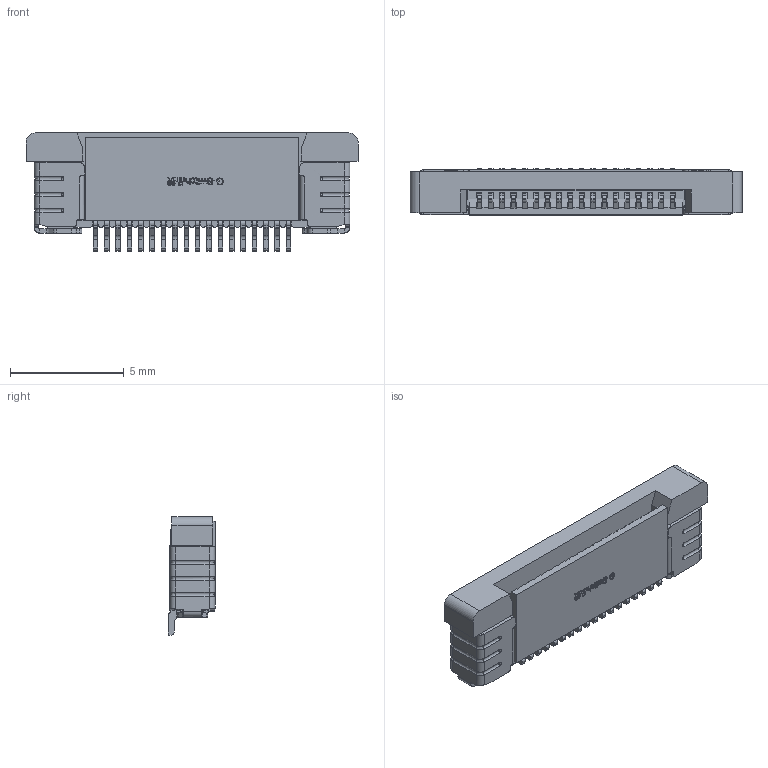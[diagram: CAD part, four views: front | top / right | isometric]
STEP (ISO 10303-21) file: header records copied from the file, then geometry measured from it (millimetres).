
FILE_DESCRIPTION (( 'STEP AP203' ), '1' );
FILE_NAME ('GT-F0504SR20-XXSMT01.STEP', '2023-12-27T07:47:25', ( 'Microsoft' ), ( 'Microsoft' ), 'SwSTEP 2.0', 'SolidWorks 2023', '' );
FILE_SCHEMA (( 'CONFIG_CONTROL_DESIGN' ));
Products named in the file (1): GT-F0504SR20-XXSMT01
Bounding box: 14.6 x 2.07 x 5.2 mm (x, y, z)
Surface area: 639.2 mm2 (no closed solid volume)
Topology: 0 solids, 6 shells, 2053 faces, 6377 edges, 4165 vertices
Faces by surface type: plane 1159, cylinder 704, bspline 190
Entity records: 80311 total; most frequent: CARTESIAN_POINT 24997, ORIENTED_EDGE 12646, DIRECTION 10225, EDGE_CURVE 6377, VERTEX_POINT 4165, LINE 4021, VECTOR 4021, AXIS2_PLACEMENT_3D 3102
